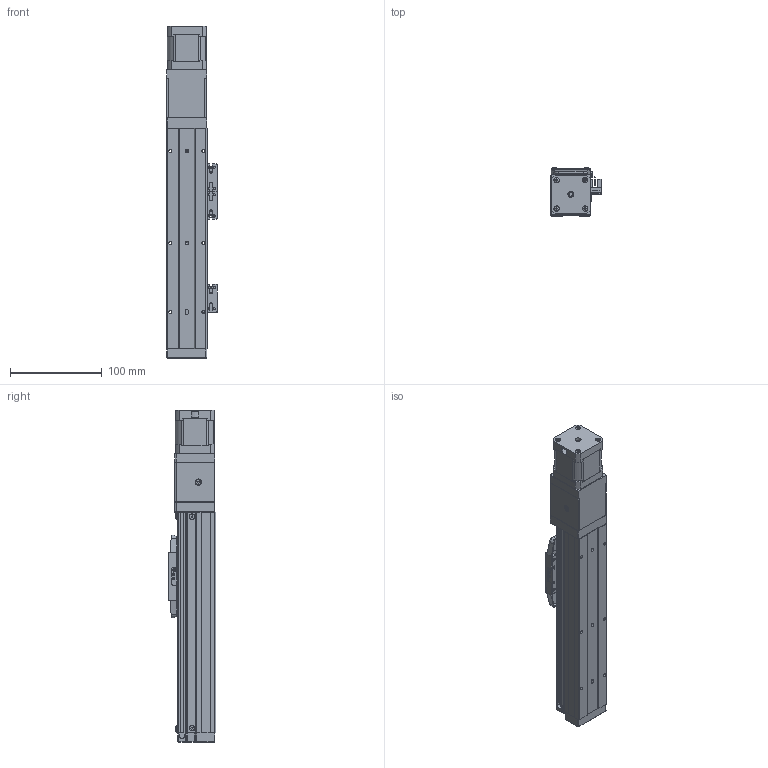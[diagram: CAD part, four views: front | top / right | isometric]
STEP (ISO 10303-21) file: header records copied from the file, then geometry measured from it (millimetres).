
FILE_DESCRIPTION (( 'STEP AP203' ), '1' );
FILE_NAME ('GTH4-100-BC-B42-C4.step', '2023-02-14T00:14:03', ( '微软用户' ), ( '微软中国' ), 'SwSTEP 2.0', 'SolidWorks 2020', '' );
FILE_SCHEMA (( 'CONFIG_CONTROL_DESIGN' ));
Length unit declared in the file: millimetre
Products named in the file (19): 42CM06; GBT70.1-2000 M3×16; GBT 70.1-M2.5×6; GTH4-100-BC-B42-C4; BTH50-028; BTH40-004; BTH50-023; BTH40-013; BTH40-001-50_BTH40-001-100; BTH50-024; GBT 70.3-M3℅6; BTH40-003; GBT 70.1-M3℅6; BTH40-017; BTH40-006; GBT96.1-2002 3×0.8; BTH40-005-1; BTH-M3X5X6; BTH40-022
Assembly tree (49 placements, depth 2):
  GTH4-100-BC-B42-C4
    BTH40-001-50_BTH40-001-100
    BTH40-003
    BTH40-006
    BTH-M3X5X6  x10
    GBT70.1-2000 M3×16  x4
    BTH50-028  x2
    BTH50-023  x3
    BTH50-024  x3
    GBT 70.1-M3℅6  x6
    GBT96.1-2002 3×0.8  x6
    BTH40-022
    GBT 70.1-M2.5×6  x2
    BTH40-004
    BTH40-013
    GBT 70.3-M3℅6  x4
    BTH40-017
    BTH40-005-1
    42CM06
Bounding box: 55.2 x 52 x 361 mm (x, y, z)
Volume: 570320.7 mm3; surface area: 158068.1 mm2
Topology: 58 solids, 58 shells, 3282 faces, 7658 edges, 4596 vertices
Faces by surface type: cone 1475, plane 1112, cylinder 531, torus 128, bspline 24, sphere 12
Entity records: 75090 total; most frequent: DIRECTION 13381, CARTESIAN_POINT 13133, ORIENTED_EDGE 11778, EDGE_CURVE 5889, AXIS2_PLACEMENT_3D 5071, VERTEX_POINT 3527, LINE 3239, VECTOR 3239
